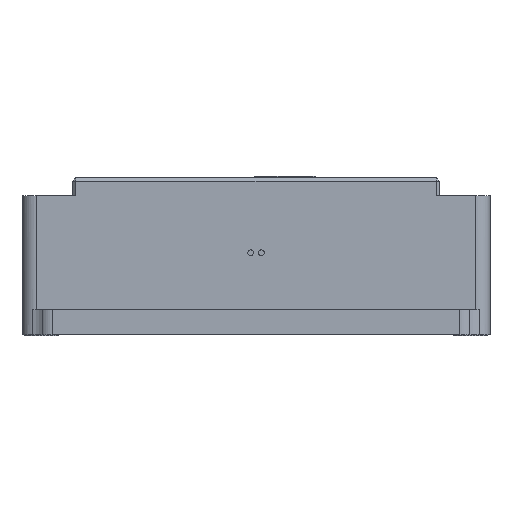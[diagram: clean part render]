
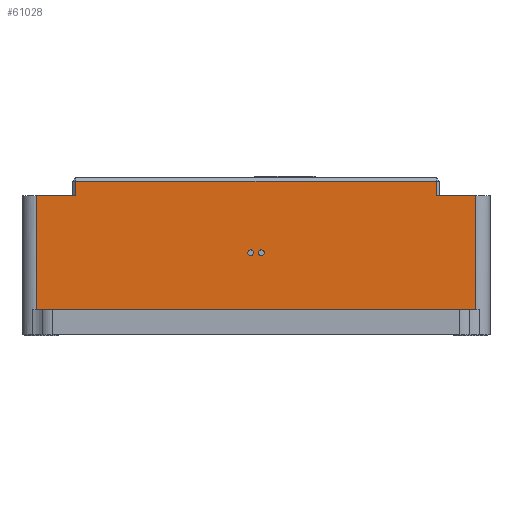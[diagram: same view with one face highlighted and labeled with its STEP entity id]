
A CAD part, left-side view. The second image highlights one B-rep face of the part: STEP entity #61028.
In plain terms, the highlighted planar face has unit normal (-1, 0, 0).
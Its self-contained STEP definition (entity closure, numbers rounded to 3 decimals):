
#60903=AXIS2_PLACEMENT_3D('Plane Axis2P3D',#60900,#60901,#60902) ;
#60964=AXIS2_PLACEMENT_3D('Circle Axis2P3D',#60962,#60963,$) ;
#60973=AXIS2_PLACEMENT_3D('Circle Axis2P3D',#60971,#60972,$) ;
#60141=CARTESIAN_POINT('Vertex',(-55.8,-25.25,20.)) ;
#60148=CARTESIAN_POINT('Vertex',(-55.8,25.25,20.)) ;
#60151=CARTESIAN_POINT('Line Origine',(-55.8,0.,20.)) ;
#60900=CARTESIAN_POINT('Axis2P3D Location',(-55.8,-27.75,18.)) ;
#60905=CARTESIAN_POINT('Line Origine',(-55.8,25.25,19.)) ;
#60909=CARTESIAN_POINT('Vertex',(-55.8,25.25,18.)) ;
#60912=CARTESIAN_POINT('Line Origine',(-55.8,28.,18.)) ;
#60916=CARTESIAN_POINT('Vertex',(-55.8,30.75,18.)) ;
#60919=CARTESIAN_POINT('Line Origine',(-55.8,30.75,10.)) ;
#60923=CARTESIAN_POINT('Vertex',(-55.8,30.75,2.)) ;
#60926=CARTESIAN_POINT('Line Origine',(-55.8,0.,2.)) ;
#60930=CARTESIAN_POINT('Vertex',(-55.8,-30.75,2.)) ;
#60933=CARTESIAN_POINT('Line Origine',(-55.8,-30.75,10.)) ;
#60937=CARTESIAN_POINT('Vertex',(-55.8,-30.75,18.)) ;
#60940=CARTESIAN_POINT('Line Origine',(-55.8,-28.,18.)) ;
#60944=CARTESIAN_POINT('Vertex',(-55.8,-25.25,18.)) ;
#60947=CARTESIAN_POINT('Line Origine',(-55.8,-25.25,19.)) ;
#60962=CARTESIAN_POINT('Axis2P3D Location',(-55.8,-0.75,10.)) ;
#60966=CARTESIAN_POINT('Vertex',(-55.8,-0.75,9.6)) ;
#60968=CARTESIAN_POINT('Vertex',(-55.8,-0.75,10.4)) ;
#60971=CARTESIAN_POINT('Axis2P3D Location',(-55.8,-0.75,10.)) ;
#60981=CARTESIAN_POINT('Control Point',(-55.8,0.75,10.4)) ;
#60982=CARTESIAN_POINT('Control Point',(-55.8,0.688,10.4)) ;
#60983=CARTESIAN_POINT('Control Point',(-55.8,0.626,10.388)) ;
#60984=CARTESIAN_POINT('Control Point',(-55.8,0.567,10.364)) ;
#60985=CARTESIAN_POINT('Control Point',(-55.8,0.462,10.294)) ;
#60986=CARTESIAN_POINT('Control Point',(-55.8,0.39,10.191)) ;
#60987=CARTESIAN_POINT('Control Point',(-55.8,0.365,10.132)) ;
#60988=CARTESIAN_POINT('Control Point',(-55.8,0.338,10.009)) ;
#60989=CARTESIAN_POINT('Control Point',(-55.8,0.359,9.884)) ;
#60990=CARTESIAN_POINT('Control Point',(-55.8,0.382,9.825)) ;
#60991=CARTESIAN_POINT('Control Point',(-55.8,0.449,9.718)) ;
#60992=CARTESIAN_POINT('Control Point',(-55.8,0.552,9.644)) ;
#60993=CARTESIAN_POINT('Control Point',(-55.8,0.61,9.618)) ;
#60994=CARTESIAN_POINT('Control Point',(-55.8,0.674,9.602)) ;
#60995=CARTESIAN_POINT('Control Point',(-55.8,0.74,9.6)) ;
#60996=CARTESIAN_POINT('Control Point',(-55.8,0.743,9.6)) ;
#60997=CARTESIAN_POINT('Control Point',(-55.8,0.747,9.6)) ;
#60998=CARTESIAN_POINT('Control Point',(-55.8,0.75,9.6)) ;
#60999=CARTESIAN_POINT('Vertex',(-55.8,0.75,10.4)) ;
#61001=CARTESIAN_POINT('Vertex',(-55.8,0.75,9.6)) ;
#61005=CARTESIAN_POINT('Control Point',(-55.8,0.75,9.6)) ;
#61006=CARTESIAN_POINT('Control Point',(-55.8,0.812,9.6)) ;
#61007=CARTESIAN_POINT('Control Point',(-55.8,0.874,9.612)) ;
#61008=CARTESIAN_POINT('Control Point',(-55.8,0.933,9.636)) ;
#61009=CARTESIAN_POINT('Control Point',(-55.8,1.038,9.706)) ;
#61010=CARTESIAN_POINT('Control Point',(-55.8,1.11,9.809)) ;
#61011=CARTESIAN_POINT('Control Point',(-55.8,1.135,9.868)) ;
#61012=CARTESIAN_POINT('Control Point',(-55.8,1.162,9.991)) ;
#61013=CARTESIAN_POINT('Control Point',(-55.8,1.141,10.116)) ;
#61014=CARTESIAN_POINT('Control Point',(-55.8,1.118,10.175)) ;
#61015=CARTESIAN_POINT('Control Point',(-55.8,1.051,10.282)) ;
#61016=CARTESIAN_POINT('Control Point',(-55.8,0.948,10.356)) ;
#61017=CARTESIAN_POINT('Control Point',(-55.8,0.89,10.382)) ;
#61018=CARTESIAN_POINT('Control Point',(-55.8,0.826,10.398)) ;
#61019=CARTESIAN_POINT('Control Point',(-55.8,0.76,10.4)) ;
#61020=CARTESIAN_POINT('Control Point',(-55.8,0.757,10.4)) ;
#61021=CARTESIAN_POINT('Control Point',(-55.8,0.753,10.4)) ;
#61022=CARTESIAN_POINT('Control Point',(-55.8,0.75,10.4)) ;
#60152=DIRECTION('Vector Direction',(0.,1.,0.)) ;
#60901=DIRECTION('Axis2P3D Direction',(-1.,0.,0.)) ;
#60902=DIRECTION('Axis2P3D XDirection',(0.,0.,1.)) ;
#60906=DIRECTION('Vector Direction',(0.,0.,-1.)) ;
#60913=DIRECTION('Vector Direction',(0.,-1.,0.)) ;
#60920=DIRECTION('Vector Direction',(0.,0.,-1.)) ;
#60927=DIRECTION('Vector Direction',(0.,1.,0.)) ;
#60934=DIRECTION('Vector Direction',(0.,0.,1.)) ;
#60941=DIRECTION('Vector Direction',(0.,1.,0.)) ;
#60948=DIRECTION('Vector Direction',(0.,0.,1.)) ;
#60963=DIRECTION('Axis2P3D Direction',(-1.,0.,0.)) ;
#60972=DIRECTION('Axis2P3D Direction',(-1.,0.,0.)) ;
#60153=VECTOR('Line Direction',#60152,1.) ;
#60907=VECTOR('Line Direction',#60906,1.) ;
#60914=VECTOR('Line Direction',#60913,1.) ;
#60921=VECTOR('Line Direction',#60920,1.) ;
#60928=VECTOR('Line Direction',#60927,1.) ;
#60935=VECTOR('Line Direction',#60934,1.) ;
#60942=VECTOR('Line Direction',#60941,1.) ;
#60949=VECTOR('Line Direction',#60948,1.) ;
#60953=ORIENTED_EDGE('',*,*,#60911,.T.) ;
#60954=ORIENTED_EDGE('',*,*,#60918,.F.) ;
#60955=ORIENTED_EDGE('',*,*,#60925,.T.) ;
#60956=ORIENTED_EDGE('',*,*,#60932,.F.) ;
#60957=ORIENTED_EDGE('',*,*,#60939,.T.) ;
#60958=ORIENTED_EDGE('',*,*,#60946,.T.) ;
#60959=ORIENTED_EDGE('',*,*,#60951,.T.) ;
#60960=ORIENTED_EDGE('',*,*,#60155,.T.) ;
#60977=ORIENTED_EDGE('',*,*,#60970,.F.) ;
#60978=ORIENTED_EDGE('',*,*,#60975,.F.) ;
#61025=ORIENTED_EDGE('',*,*,#61003,.T.) ;
#61026=ORIENTED_EDGE('',*,*,#61023,.T.) ;
#60979=FACE_BOUND('',#60976,.T.) ;
#61027=FACE_BOUND('',#61024,.T.) ;
#61028=ADVANCED_FACE('PartBody.1',(#60961,#60979,#61027),#60904,.T.) ;
#60980=B_SPLINE_CURVE_WITH_KNOTS('',5,(#60981,#60982,#60983,#60984,#60985,#60986,#60987,#60988,#60989,#60990,#60991,#60992,#60993,#60994,#60995,#60996,#60997,#60998),.UNSPECIFIED.,.F.,.U.,(6,3,3,3,3,6),(0.,0.441,0.882,1.323,1.764,1.788),.UNSPECIFIED.) ;
#61004=B_SPLINE_CURVE_WITH_KNOTS('',5,(#61005,#61006,#61007,#61008,#61009,#61010,#61011,#61012,#61013,#61014,#61015,#61016,#61017,#61018,#61019,#61020,#61021,#61022),.UNSPECIFIED.,.F.,.U.,(6,3,3,3,3,6),(0.,0.441,0.882,1.323,1.764,1.788),.UNSPECIFIED.) ;
#60965=CIRCLE('generated circle',#60964,0.4) ;
#60974=CIRCLE('generated circle',#60973,0.4) ;
#60155=EDGE_CURVE('',#60142,#60149,#60154,.T.) ;
#60911=EDGE_CURVE('',#60149,#60910,#60908,.T.) ;
#60918=EDGE_CURVE('',#60917,#60910,#60915,.T.) ;
#60925=EDGE_CURVE('',#60917,#60924,#60922,.T.) ;
#60932=EDGE_CURVE('',#60931,#60924,#60929,.T.) ;
#60939=EDGE_CURVE('',#60931,#60938,#60936,.T.) ;
#60946=EDGE_CURVE('',#60938,#60945,#60943,.T.) ;
#60951=EDGE_CURVE('',#60945,#60142,#60950,.T.) ;
#60970=EDGE_CURVE('',#60967,#60969,#60965,.T.) ;
#60975=EDGE_CURVE('',#60969,#60967,#60974,.T.) ;
#61003=EDGE_CURVE('',#61000,#61002,#60980,.T.) ;
#61023=EDGE_CURVE('',#61002,#61000,#61004,.T.) ;
#60952=EDGE_LOOP('',(#60953,#60954,#60955,#60956,#60957,#60958,#60959,#60960)) ;
#60976=EDGE_LOOP('',(#60977,#60978)) ;
#61024=EDGE_LOOP('',(#61025,#61026)) ;
#60961=FACE_OUTER_BOUND('',#60952,.T.) ;
#60154=LINE('Line',#60151,#60153) ;
#60908=LINE('Line',#60905,#60907) ;
#60915=LINE('Line',#60912,#60914) ;
#60922=LINE('Line',#60919,#60921) ;
#60929=LINE('Line',#60926,#60928) ;
#60936=LINE('Line',#60933,#60935) ;
#60943=LINE('Line',#60940,#60942) ;
#60950=LINE('Line',#60947,#60949) ;
#60904=PLANE('',#60903) ;
#60142=VERTEX_POINT('',#60141) ;
#60149=VERTEX_POINT('',#60148) ;
#60910=VERTEX_POINT('',#60909) ;
#60917=VERTEX_POINT('',#60916) ;
#60924=VERTEX_POINT('',#60923) ;
#60931=VERTEX_POINT('',#60930) ;
#60938=VERTEX_POINT('',#60937) ;
#60945=VERTEX_POINT('',#60944) ;
#60967=VERTEX_POINT('',#60966) ;
#60969=VERTEX_POINT('',#60968) ;
#61000=VERTEX_POINT('',#60999) ;
#61002=VERTEX_POINT('',#61001) ;
